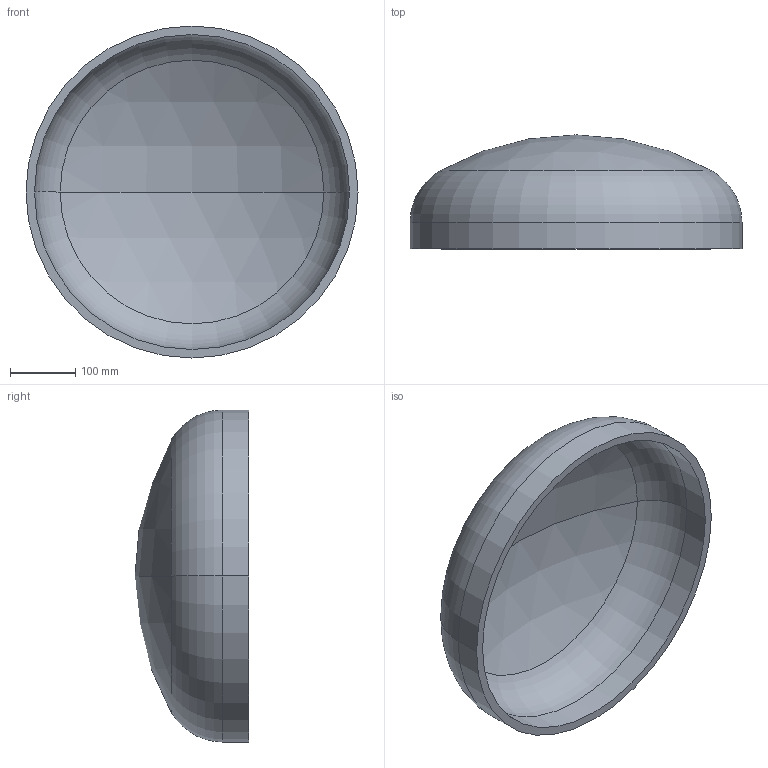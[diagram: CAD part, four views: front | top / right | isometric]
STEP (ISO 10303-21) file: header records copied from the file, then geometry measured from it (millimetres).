
FILE_DESCRIPTION (( 'STEP AP203' ), '1' );
FILE_NAME ('DIN 28013 Korbbogenform_-_Boden DIN 28013 - 508 x 40 - I - s=13.step', '2016-07-01T07:52:29', ( '' ), ( '' ), 'SwSTEP 2.0', 'SolidWorks 2013', '' );
FILE_SCHEMA (( 'CONFIG_CONTROL_DESIGN' ));
Length unit declared in the file: millimetre
Products named in the file (1): DIN 28013 Korbbogenform_-_Boden DIN 28013 - 508 x 40 - I - s=13
Bounding box: 508 x 174.37 x 508 mm (x, y, z)
Volume: 4335694.3 mm3; surface area: 687599.8 mm2
Topology: 1 solids, 1 shells, 13 faces, 24 edges, 14 vertices
Faces by surface type: torus 4, cylinder 4, sphere 4, plane 1
Entity records: 407 total; most frequent: DIRECTION 72, CARTESIAN_POINT 52, ORIENTED_EDGE 48, AXIS2_PLACEMENT_3D 34, EDGE_CURVE 24, CIRCLE 20, VERTEX_POINT 14, EDGE_LOOP 14
